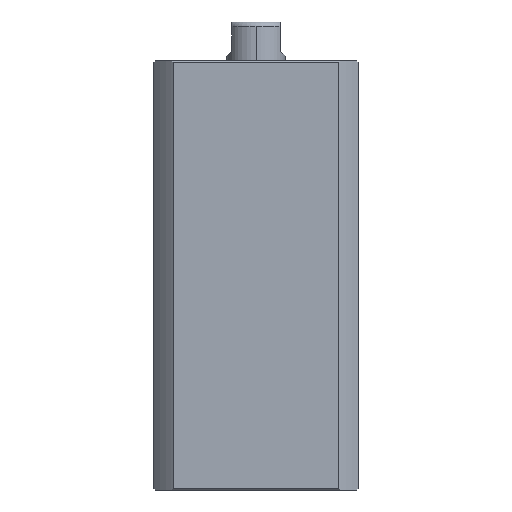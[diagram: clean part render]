
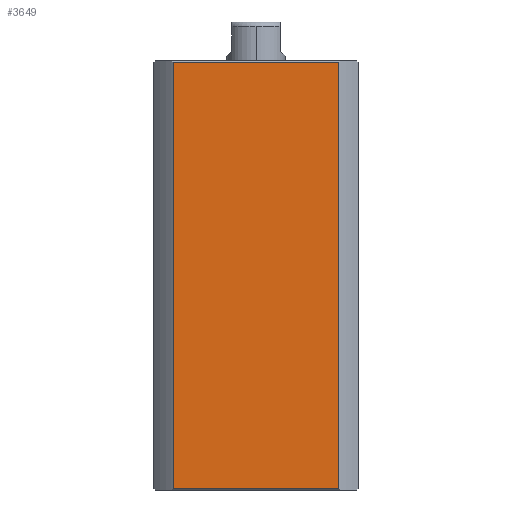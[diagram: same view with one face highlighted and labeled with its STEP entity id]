
A CAD part, left-side view. The second image highlights one B-rep face of the part: STEP entity #3649.
In plain terms, the highlighted planar face has unit normal (-1, 0, 0).
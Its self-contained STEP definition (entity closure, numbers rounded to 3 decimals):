
#229 = DIRECTION ( 'NONE',  ( 0., 1., 0. ) ) ;
#244 = LINE ( 'NONE', #3216, #5224 ) ;
#271 = FACE_OUTER_BOUND ( 'NONE', #7715, .T. ) ;
#722 = DIRECTION ( 'NONE',  ( 1., 0., 0. ) ) ;
#993 = CARTESIAN_POINT ( 'NONE',  ( -21., -16.971, 87.7 ) ) ;
#1606 = VECTOR ( 'NONE', #229, 1000. ) ;
#2106 = CARTESIAN_POINT ( 'NONE',  ( -21., 16.971, -212. ) ) ;
#2494 = AXIS2_PLACEMENT_3D ( 'NONE', #2550, #722, #7293 ) ;
#2550 = CARTESIAN_POINT ( 'NONE',  ( -21., 21., 88. ) ) ;
#2982 = VERTEX_POINT ( 'NONE', #3270 ) ;
#3114 = EDGE_CURVE ( 'NONE', #6737, #8783, #10386, .T. ) ;
#3216 = CARTESIAN_POINT ( 'NONE',  ( -21., -16.971, -212. ) ) ;
#3270 = CARTESIAN_POINT ( 'NONE',  ( -21., 16.971, 87.7 ) ) ;
#3507 = CARTESIAN_POINT ( 'NONE',  ( -21., 16.971, 0.3 ) ) ;
#3649 = ADVANCED_FACE ( 'NONE', ( #271 ), #9137, .F. ) ;
#4131 = LINE ( 'NONE', #5881, #1606 ) ;
#4569 = VECTOR ( 'NONE', #8704, 1000. ) ;
#4849 = ORIENTED_EDGE ( 'NONE', *, *, #10437, .F. ) ;
#5096 = EDGE_CURVE ( 'NONE', #6737, #2982, #9266, .T. ) ;
#5208 = CARTESIAN_POINT ( 'NONE',  ( -21., -16.971, 0.3 ) ) ;
#5224 = VECTOR ( 'NONE', #9787, 1000. ) ;
#5441 = DIRECTION ( 'NONE',  ( 0., -1., 0. ) ) ;
#5768 = EDGE_CURVE ( 'NONE', #9183, #2982, #4131, .T. ) ;
#5881 = CARTESIAN_POINT ( 'NONE',  ( -21., 21., 87.7 ) ) ;
#6737 = VERTEX_POINT ( 'NONE', #3507 ) ;
#7293 = DIRECTION ( 'NONE',  ( 0., 1., 0. ) ) ;
#7715 = EDGE_LOOP ( 'NONE', ( #11365, #8806, #4849, #11520 ) ) ;
#8194 = VECTOR ( 'NONE', #5441, 1000. ) ;
#8704 = DIRECTION ( 'NONE',  ( 0., 0., 1. ) ) ;
#8783 = VERTEX_POINT ( 'NONE', #5208 ) ;
#8806 = ORIENTED_EDGE ( 'NONE', *, *, #3114, .T. ) ;
#9137 = PLANE ( 'NONE',  #2494 ) ;
#9183 = VERTEX_POINT ( 'NONE', #993 ) ;
#9266 = LINE ( 'NONE', #2106, #4569 ) ;
#9787 = DIRECTION ( 'NONE',  ( 0., 0., -1. ) ) ;
#10386 = LINE ( 'NONE', #11024, #8194 ) ;
#10437 = EDGE_CURVE ( 'NONE', #9183, #8783, #244, .T. ) ;
#11024 = CARTESIAN_POINT ( 'NONE',  ( -21., 21., 0.3 ) ) ;
#11365 = ORIENTED_EDGE ( 'NONE', *, *, #5096, .F. ) ;
#11520 = ORIENTED_EDGE ( 'NONE', *, *, #5768, .T. ) ;
